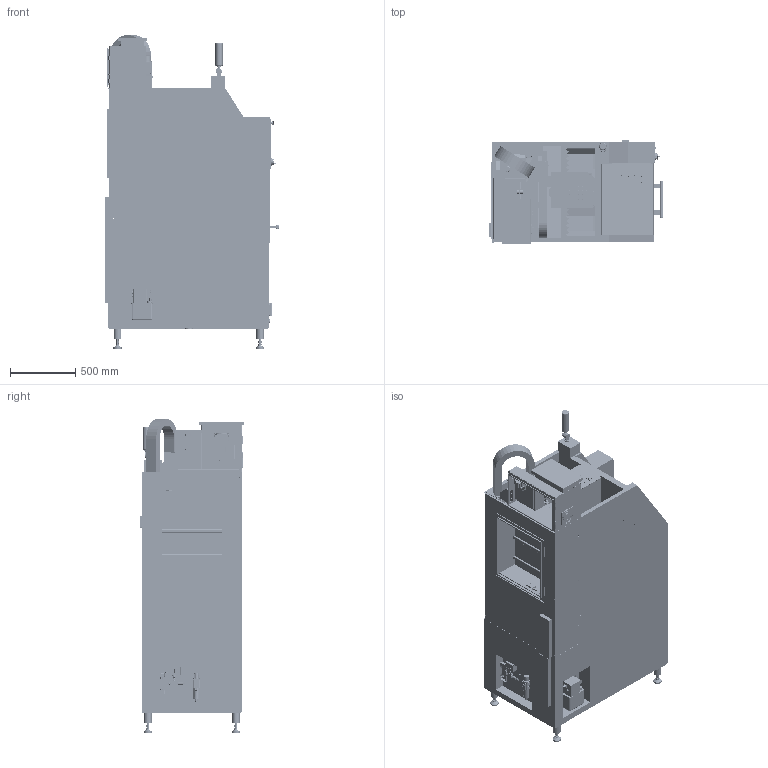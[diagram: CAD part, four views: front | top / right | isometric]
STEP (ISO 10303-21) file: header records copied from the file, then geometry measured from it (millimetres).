
FILE_DESCRIPTION( ( 'Unknown' ), '1' );
FILE_NAME( '//SERVERENG2/Data/DRAWINGS/Simplified Machine Assemblies/2 OP M11/27600-M11-Simplified-with enclosure.stp', 'Unknown', ( 'Unknown' ), ( 'Unknown' ), 'PSStep 14.0', 'Unknown', ' ' );
FILE_SCHEMA( ( 'AUTOMOTIVE_DESIGN { 1 0 10303 214 1 1 1 1 }' ) );
Length unit declared in the file: millimetre
Products named in the file (226): OP520120; OP520130_V1; 1; 2; 3; 4; 5; 6; 7; 8; 9; 10; 11; OP443050; OP443050_8; 12; OP443030_V1; 13; 14; 15; 16; OP130071; 17; 18;     MSBR; 27528_OP030012_V13-6-27; 3D_EKL_060|EKL_060_Stern;Importiert1; 19; 20; 21; 22; 23; 24; OP420400_V2; OP420480; OP420490; OP420730; XA_Chain_I; OP420520_V1; OP050102_27523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
Bounding box: 1343.05 x 803.85 x 2410.8 mm (x, y, z)
Surface area: 30001607.6 mm2 (no closed solid volume)
Topology: 0 solids, 2215 shells, 2217 faces, 22512 edges, 22315 vertices
Faces by surface type: plane 1639, cylinder 500, cone 31, torus 26, bspline 14, sphere 6, extrusion 1
Full cylindrical faces by diameter (mm): 4 x2, 4.5 x1, 5.9 x4, 6 x1, 6.2 x1, 6.35 x6, 8.376 x1, 8.566 x1, 9 x8, 9.398 x1, 9.5 x1, 9.652 x2, 10 x7, 10.5 x8, 10.8 x2, 11.996 x1, 12.878 x6, 13.16 x2, 14 x13, 14.823 x1, 14.95 x2, 15 x1, 16 x5, 16.256 x1, 17.478 x1, 18.12 x1, 18.4 x2, 18.6 x2, 19.05 x1, 20 x3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
Entity records: 258046 total; most frequent: CARTESIAN_POINT 78127, DIRECTION 32077, ORIENTED_EDGE 22234, EDGE_CURVE 22234, VERTEX_POINT 22234, VECTOR 13967, LINE 13966, AXIS2_PLACEMENT_3D 9055
